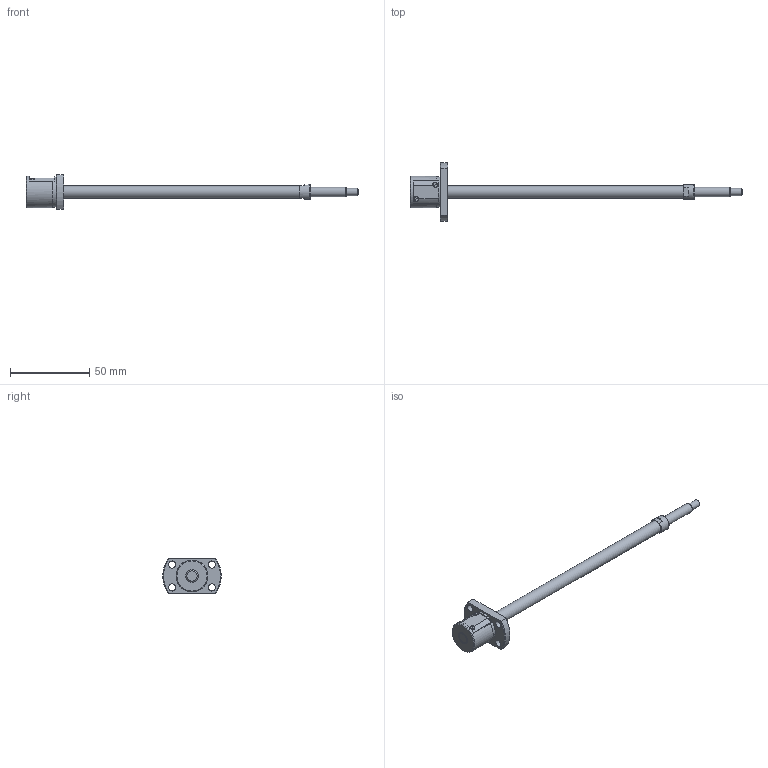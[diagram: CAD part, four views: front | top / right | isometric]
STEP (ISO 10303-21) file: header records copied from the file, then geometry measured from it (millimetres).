
FILE_DESCRIPTION( ( 'STEP AP203' ), '1' );
FILE_NAME( 'e:/temp/worker_65/temp/exporttempdir_908_35_weh1i/format_0/PSRT0802-169R210C5A0X(A0).stp', '2021-10-19T08:15:35', ( 'License CC BY-ND 4.0' ), ( 'CADENAS' ), ' ', 'PARTsolutions', ' ' );
FILE_SCHEMA( ( 'CONFIG_CONTROL_DESIGN' ) );
Length unit declared in the file: millimetre
Products named in the file (3): PSRT0802-169R210C5A0X(A0); _PSRT0802A_shaft; _PSR0802_nut
Assembly tree (2 placements, depth 2):
  PSRT0802-169R210C5A0X(A0)
    _PSRT0802A_shaft
    _PSR0802_nut
Bounding box: 210 x 37 x 22 mm (x, y, z)
Volume: 17959.6 mm3; surface area: 9207.6 mm2
Topology: 2 solids, 2 shells, 68 faces, 168 edges, 109 vertices
Faces by surface type: plane 33, cylinder 25, cone 9, torus 1
Full cylindrical faces by diameter (mm): 3.2 x2, 4.5 x5, 6 x1, 8 x2, 9.5 x1, 19.6 x1, 20 x1
Entity records: 2068 total; most frequent: CARTESIAN_POINT 393, DIRECTION 342, ORIENTED_EDGE 288, EDGE_CURVE 144, AXIS2_PLACEMENT_3D 137, VERTEX_POINT 104, EDGE_LOOP 102, FACE_OUTER_BOUND 82
